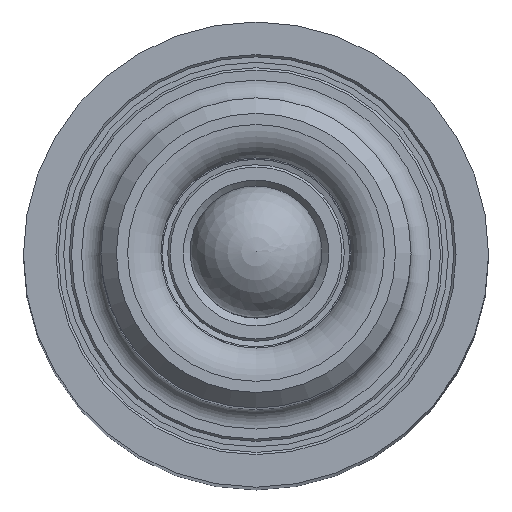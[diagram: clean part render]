
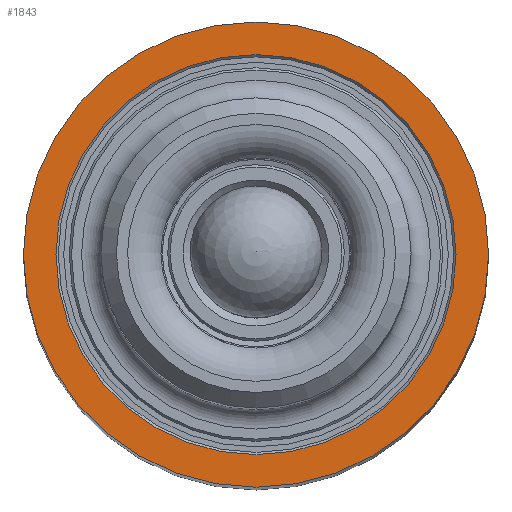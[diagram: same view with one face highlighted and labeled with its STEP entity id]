
A CAD part, top view. The second image highlights one B-rep face of the part: STEP entity #1843.
In plain terms, the highlighted planar face has unit normal (0, 0, 1).
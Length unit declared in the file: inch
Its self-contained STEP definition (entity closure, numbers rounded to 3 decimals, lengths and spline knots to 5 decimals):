
#40=FACE_BOUND('',#308,.T.);
#75=PLANE('',#2027);
#181=FACE_OUTER_BOUND('',#307,.T.);
#307=EDGE_LOOP('',(#1216));
#308=EDGE_LOOP('',(#1217));
#670=CIRCLE('',#2023,0.3225);
#673=CIRCLE('',#2028,0.375);
#809=VERTEX_POINT('',#2929);
#812=VERTEX_POINT('',#2939);
#967=EDGE_CURVE('',#809,#809,#670,.T.);
#972=EDGE_CURVE('',#812,#812,#673,.T.);
#1216=ORIENTED_EDGE('',*,*,#972,.T.);
#1217=ORIENTED_EDGE('',*,*,#967,.F.);
#1843=ADVANCED_FACE('',(#181,#40),#75,.T.);
#2023=AXIS2_PLACEMENT_3D('',#2930,#2294,#2295);
#2027=AXIS2_PLACEMENT_3D('',#2938,#2304,#2305);
#2028=AXIS2_PLACEMENT_3D('',#2940,#2306,#2307);
#2294=DIRECTION('center_axis',(0.,0.,1.));
#2295=DIRECTION('ref_axis',(-1.,0.,0.));
#2304=DIRECTION('center_axis',(0.,0.,1.));
#2305=DIRECTION('ref_axis',(1.,0.,0.));
#2306=DIRECTION('center_axis',(0.,0.,1.));
#2307=DIRECTION('ref_axis',(-1.,0.,0.));
#2929=CARTESIAN_POINT('',(0.3225,0.,1.3));
#2930=CARTESIAN_POINT('Origin',(0.,0.,1.3));
#2938=CARTESIAN_POINT('Origin',(0.,0.,
1.3));
#2939=CARTESIAN_POINT('',(0.375,0.,1.3));
#2940=CARTESIAN_POINT('Origin',(0.,0.,1.3));
